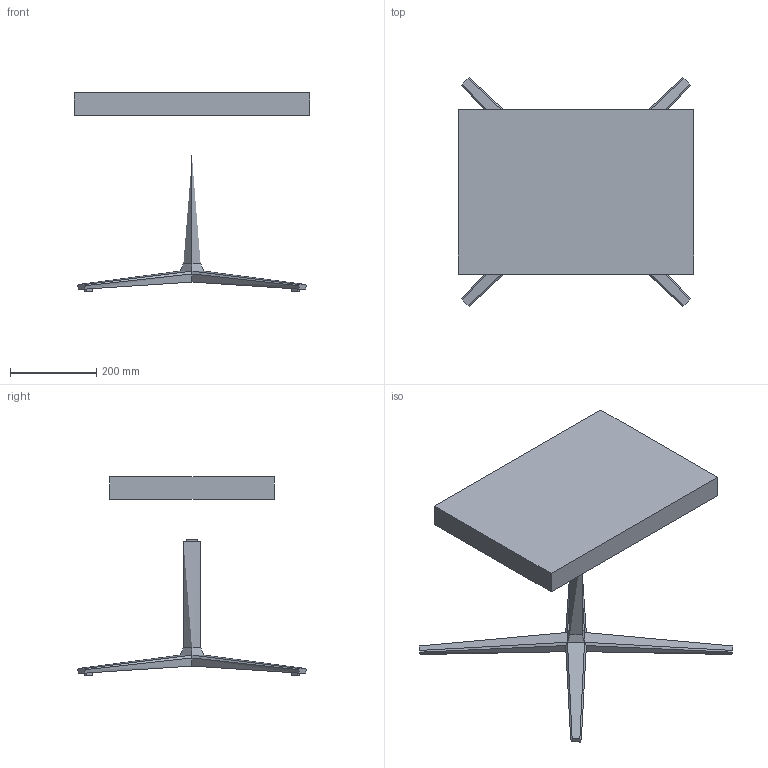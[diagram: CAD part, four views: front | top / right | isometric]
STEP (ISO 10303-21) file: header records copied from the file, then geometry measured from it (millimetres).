
FILE_DESCRIPTION(/* description */ (''),/* implementation_level */ '2;1');
FILE_NAME(/* name */ 'SKYT-F~1',/* time_stamp */ '2017-05-03T16:40:11+02:00',/* author */ (''),/* organization */ (''),/* preprocessor_version */ 'ST-DEVELOPER v15',/* originating_system */ '',/* authorisation */ '');
FILE_SCHEMA (('CONFIG_CONTROL_DESIGN'));
Length unit declared in the file: millimetre
Products named in the file (1): Document
Bounding box: 545.08 x 529.7 x 459.23 mm (x, y, z)
Volume: 22982687.1 mm3; surface area: 803683.7 mm2
Topology: 5 solids, 6 shells, 68 faces, 145 edges, 88 vertices
Faces by surface type: bspline 43, plane 25
Entity records: 15993 total; most frequent: CARTESIAN_POINT 15032, ORIENTED_EDGE 282, EDGE_CURVE 142, VERTEX_POINT 86, EDGE_LOOP 69, ADVANCED_FACE 68, FACE_OUTER_BOUND 68, B_SPLINE_CURVE_WITH_KNOTS 51
